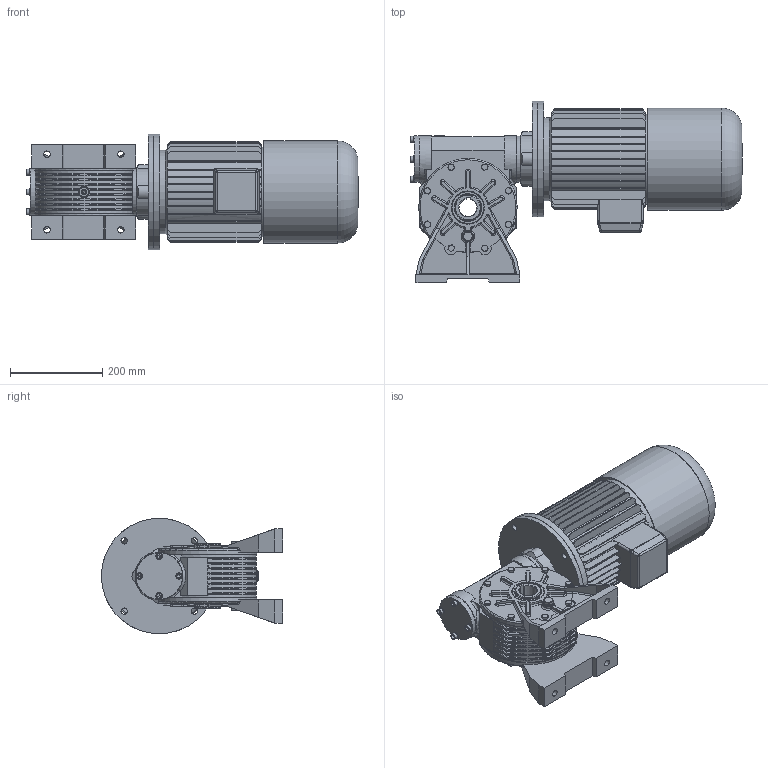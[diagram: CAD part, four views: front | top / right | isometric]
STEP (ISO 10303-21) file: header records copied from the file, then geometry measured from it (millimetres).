
FILE_DESCRIPTION((''),'2;1');
FILE_NAME('Y:\Archivi Inventor\Prog_01\GRAND_50\complessivi\Figurini\MRV50 sito\112M_autofrenante\mrv50_P2_112_B5.stp','2013-02-08T10:15:51',('tech3'),(''),'Autodesk Inventor 2013','Autodesk Inventor 2013','');
FILE_SCHEMA(('AUTOMOTIVE_DESIGN { 1 0 10303 214 1 1 1 1 }'));
Length unit declared in the file: millimetre
Products named in the file (18): mrv50_100_112b5; mrv50_fig; Figurino_carcassa_MRV50; 0105028; 0105029; figurino_corona_MRV50; figurino_0105010; Guarnizione 3_8 GAS; Tappo 3_8 GAS_esagn_incsst; Tappo3_8 GAS; figurino_0105009; ISO 4017 M8 x 20; 55_70_8; UNI 6592 8.4 x 14; UNI 5931  M 8 x  25; 0105006; DIN EN ISO 4762 M8 x 25; motori B5 brake 112
Assembly tree (50 placements, depth 3):
  mrv50_100_112b5
    mrv50_fig
      Figurino_carcassa_MRV50
      0105028  x2
      0105029  x2
      figurino_corona_MRV50
      figurino_0105010  x2
      Guarnizione 3_8 GAS  x4
      Tappo 3_8 GAS_esagn_incsst  x2
      Tappo3_8 GAS  x2
      figurino_0105009
      ISO 4017 M8 x 20  x16
      55_70_8  x2
      UNI 6592 8.4 x 14  x4
      UNI 5931  M 8 x  25  x4
    0105006
    DIN EN ISO 4762 M8 x 25  x4
    motori B5 brake 112
Bounding box: 718.8 x 392 x 250 mm (x, y, z)
Volume: 14931520.3 mm3; surface area: 1738464.5 mm2
Topology: 52 solids, 64 shells, 2227 faces, 5282 edges, 3102 vertices
Faces by surface type: plane 931, cylinder 674, cone 215, torus 175, bspline 162, sphere 70
Full cylindrical faces by diameter (mm): 2 x2, 5 x1, 6.647 x24, 8 x26, 8.4 x4, 8.5 x48, 11.63 x16, 13 x12, 13.046 x2, 13.5 x4, 14 x12, 14.95 x4, 16.3 x4, 16.5 x2, 22 x8, 24 x2, 28 x1, 55 x1, 60 x1, 66.4 x2, 69 x2, 70 x5, 72 x4, 73 x2, 75 x1, 99.5 x2, 100 x1, 101 x1, 102 x2, 174 x1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
Entity records: 52536 total; most frequent: CARTESIAN_POINT 17048, DIRECTION 7429, ORIENTED_EDGE 6778, EDGE_CURVE 3389, AXIS2_PLACEMENT_3D 2939, VERTEX_POINT 2154, EDGE_LOOP 1905, VECTOR 1551
